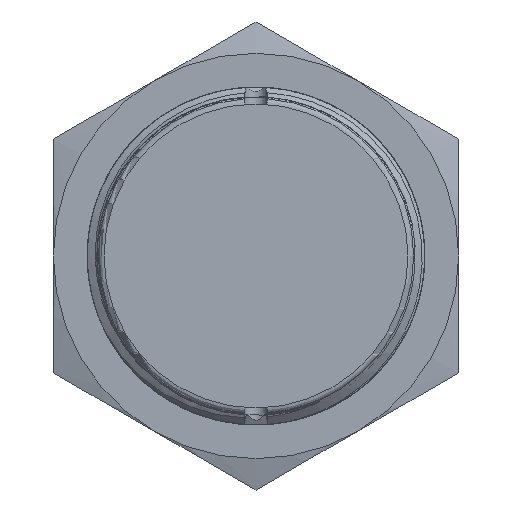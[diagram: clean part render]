
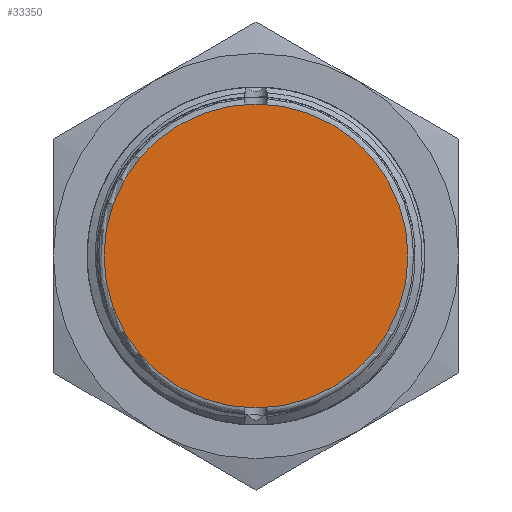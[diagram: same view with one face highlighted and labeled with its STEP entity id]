
A CAD part, left-side view. The second image highlights one B-rep face of the part: STEP entity #33350.
In plain terms, the highlighted planar face has unit normal (-1, 0, 0).
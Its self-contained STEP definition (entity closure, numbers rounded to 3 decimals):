
#14145=CARTESIAN_POINT('',(0.,0.,0.));
#14146=DIRECTION('',(-1.,0.,0.));
#14147=DIRECTION('',(0.,0.,-1.));
#14148=AXIS2_PLACEMENT_3D('',#14145,#14146,#14147);
#14158=CARTESIAN_POINT('',(0.,0.,13.5));
#14225=CARTESIAN_POINT('',(0.,0.,0.));
#14226=DIRECTION('',(-1.,0.,0.));
#14227=DIRECTION('',(0.,0.,1.));
#14228=AXIS2_PLACEMENT_3D('',#14225,#14226,#14227);
#14238=CARTESIAN_POINT('',(0.,0.,-13.5));
#16679=VERTEX_POINT('',#14158);
#16700=VERTEX_POINT('',#14238);
#33341=CARTESIAN_POINT('',(0.,0.,0.));
#33342=DIRECTION('',(-1.,0.,0.));
#33343=DIRECTION('',(0.,1.,0.));
#33344=AXIS2_PLACEMENT_3D('',#33341,#33342,#33343);
#33345=PLANE('',#33344);
#33346=ORIENTED_EDGE('',*,*,#33322,.F.);
#33347=ORIENTED_EDGE('',*,*,#33278,.F.);
#33348=EDGE_LOOP('',(#33346,#33347));
#33349=FACE_OUTER_BOUND('',#33348,.F.);
#14149=CIRCLE('',#14148,13.5);
#14229=CIRCLE('',#14228,13.5);
#33278=EDGE_CURVE('',#16700,#16679,#14149,.T.);
#33322=EDGE_CURVE('',#16679,#16700,#14229,.T.);
#33350=ADVANCED_FACE('',(#33349),#33345,.T.);
